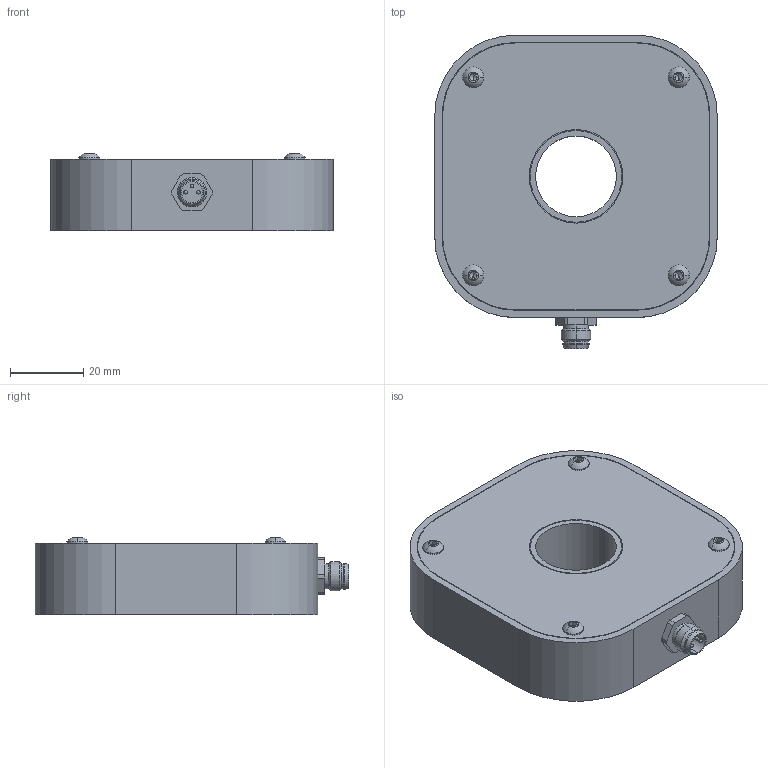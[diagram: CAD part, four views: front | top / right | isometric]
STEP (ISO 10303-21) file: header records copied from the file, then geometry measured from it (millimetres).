
FILE_DESCRIPTION (( 'STEP AP203' ), '1' );
FILE_NAME ('107418_01 (Part) (26-07-2016) (Part).STEP', '2016-07-26T11:01:33', ( '' ), ( '' ), 'SwSTEP 2.0', 'SolidWorks 2016', '' );
FILE_SCHEMA (( 'CONFIG_CONTROL_DESIGN' ));
Length unit declared in the file: millimetre
Products named in the file (1): 107418_01 (Part) (26-07-2016) (Part)
Bounding box: 77 x 85.5 x 21.15 mm (x, y, z)
Volume: 76138.2 mm3; surface area: 28678.7 mm2
Topology: 1 solids, 10 shells, 283 faces, 680 edges, 410 vertices
Faces by surface type: cylinder 110, plane 108, cone 46, sphere 8, torus 8, bspline 3
Entity records: 8110 total; most frequent: DIRECTION 1510, CARTESIAN_POINT 1387, ORIENTED_EDGE 1284, EDGE_CURVE 642, AXIS2_PLACEMENT_3D 589, VERTEX_POINT 410, LINE 332, VECTOR 332
